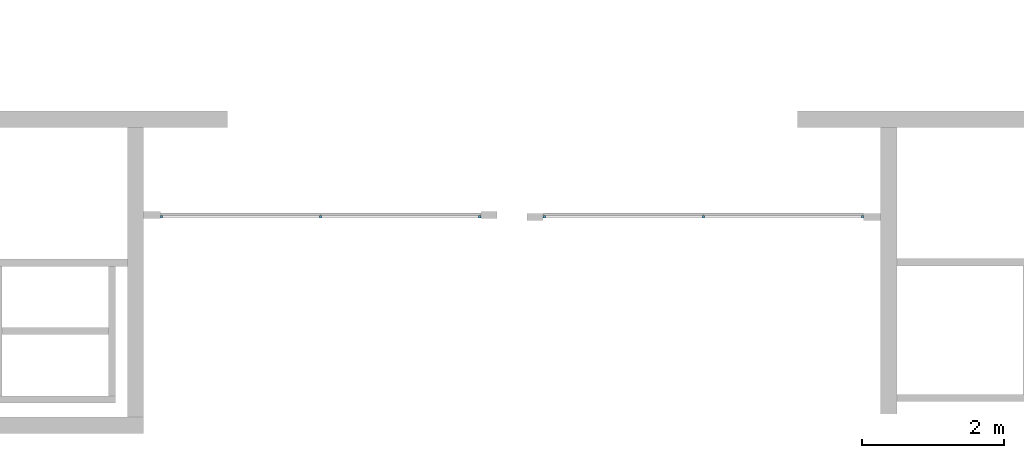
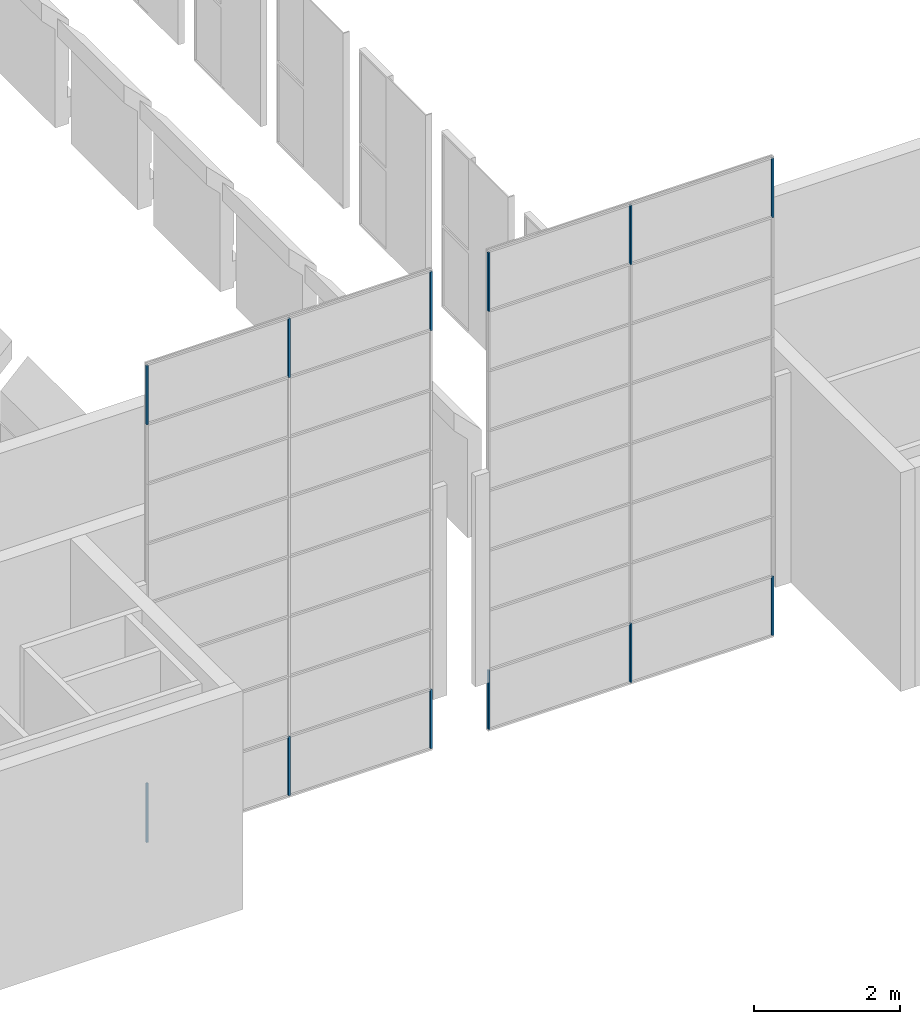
# One storey, part 5 of 16: 12 members, 2 elements without a shape of their own.
"""IFC2X3 building model written with IfcOpenShell, lengths in millimetres."""

import ifcopenshell
import ifcopenshell.guid

model = None  # the IFC model being written
_history = None  # IfcOwnerHistory: only IFC2X3 demands one
_inside = {}  # id of a spatial element -> (the spatial element, [elements in it])
_under = {}  # id of a project, library or spatial element -> (it, [spatial elements below it])
_declared = {}  # id of a project -> (the project, [libraries it declares])
_typed = {}  # id of a type object -> (the type object, [elements of that type])
_made_of = {}  # id of a material, layer set ... -> (it, [elements and type objects made of it])


def new_model(schema):
    """Start an empty IFC model of exactly this schema.

    Asked for "IFC4X3", IfcOpenShell would pick the latest addendum, in which some entities
    have other attributes; the version numbers below select the first issue.
    IFC2X3 requires an IfcOwnerHistory on every rooted entity: one is made here for all.
    """
    global model, _history
    if schema == "IFC4X3":
        model = ifcopenshell.file(schema_version=(4, 3, 0, 0))
    else:
        model = ifcopenshell.file(schema=schema)
    _inside.clear()
    _under.clear()
    _declared.clear()
    _typed.clear()
    _made_of.clear()
    _history = None
    if model.schema == "IFC2X3":
        org = make("IfcOrganization", Name="unknown")
        user = make(
            "IfcPersonAndOrganization",
            ThePerson=make("IfcPerson", FamilyName="unknown"),
            TheOrganization=org,
        )
        app = make(
            "IfcApplication",
            ApplicationDeveloper=org,
            Version="unknown",
            ApplicationFullName="unknown",
            ApplicationIdentifier="unknown",
        )
        _history = make(
            "IfcOwnerHistory",
            OwningUser=user,
            OwningApplication=app,
            ChangeAction="ADDED",
            CreationDate=0,
        )
    return model


def make(cls, **values):
    """One entity of the class cls with the attributes given. An attribute that is None is left unset."""
    return model.create_entity(
        cls, **{name: value for name, value in values.items() if value is not None}
    )


def entity(cls, *values):
    """Any entity or typed value of the class cls, its attributes in the order of the schema. None: left unset."""
    e = model.create_entity(cls)
    for i, value in enumerate(values):
        if value is not None:
            e[i] = value
    return e


def rooted(cls, **values):
    """An entity with a GlobalId (a new one), such as an element, a storey or a relation."""
    return make(cls, GlobalId=ifcopenshell.guid.new(), OwnerHistory=_history, **values)


def si_unit(unit_type, name, prefix=None):
    """IfcSIUnit, for example si_unit("LENGTHUNIT", "METRE", prefix="MILLI")."""
    return make("IfcSIUnit", UnitType=unit_type, Prefix=prefix, Name=name)


def converted_unit(unit_type, name, factor, base, dimensions=None, offset=None):
    """IfcConversionBasedUnit, such as the inch: factor (a typed value) times the base unit."""
    return make(
        "IfcConversionBasedUnit"
        if offset is None
        else "IfcConversionBasedUnitWithOffset",
        ConversionOffset=offset,
        Dimensions=None
        if dimensions is None
        else entity("IfcDimensionalExponents", *dimensions),
        UnitType=unit_type,
        Name=name,
        ConversionFactor=make(
            "IfcMeasureWithUnit", ValueComponent=factor, UnitComponent=base
        ),
    )


def derived_unit(unit_type, elements):
    """IfcDerivedUnit: a product of units, each with its exponent."""
    return make(
        "IfcDerivedUnit",
        Elements=[
            make("IfcDerivedUnitElement", Unit=unit, Exponent=power)
            for unit, power in elements
        ],
        UnitType=unit_type,
    )


def assignment(units):
    """IfcUnitAssignment: the units of a project."""
    return None if units is None else make("IfcUnitAssignment", Units=units)


def point(xyz):
    """IfcCartesianPoint."""
    return None if xyz is None else make("IfcCartesianPoint", Coordinates=xyz)


def direction(xyz):
    """IfcDirection."""
    return None if xyz is None else make("IfcDirection", DirectionRatios=xyz)


def frame(location, z_axis=None, x_axis=None):
    """IfcAxis2Placement3D, a coordinate frame: its origin and axes. An axis left out is left unset."""
    return make(
        "IfcAxis2Placement3D",
        Location=point(location),
        Axis=direction(z_axis),
        RefDirection=direction(x_axis),
    )


def frame_2d(location, x_axis=None):
    """IfcAxis2Placement2D, a coordinate frame in the plane: its origin and x axis."""
    return make(
        "IfcAxis2Placement2D", Location=point(location), RefDirection=direction(x_axis)
    )


def origin():
    """The frame at (0, 0, 0) with its axes left unset."""
    return frame((0.0, 0.0, 0.0))


def origin_2d_with_axis():
    """The frame at (0, 0) in the plane with the x axis (1, 0) written out."""
    return frame_2d((0.0, 0.0), x_axis=(1.0, 0.0))


def place(relative_to, where):
    """IfcLocalPlacement: puts the frame where relative to a parent placement (None: the world)."""
    return make(
        "IfcLocalPlacement", PlacementRelTo=relative_to, RelativePlacement=where
    )


def context(
    kind, dimensions, precision=None, world=None, true_north=None, identifier=None
):
    """IfcGeometricRepresentationContext, for example the 3D "Model" context."""
    return make(
        "IfcGeometricRepresentationContext",
        ContextIdentifier=identifier,
        ContextType=kind,
        CoordinateSpaceDimension=dimensions,
        Precision=precision,
        WorldCoordinateSystem=world,
        TrueNorth=true_north,
    )


def subcontext(parent, identifier, kind, view, scale=None):
    """IfcGeometricRepresentationSubContext, for example "Body" below "Model"."""
    return make(
        "IfcGeometricRepresentationSubContext",
        ContextIdentifier=identifier,
        ContextType=kind,
        ParentContext=parent,
        TargetScale=scale,
        TargetView=view,
    )


def project(units=None, contexts=None):
    """IfcProject with its units and contexts."""
    return rooted(
        "IfcProject",
        Name="project",
        RepresentationContexts=contexts,
        UnitsInContext=assignment(units),
    )


def spatial(cls, under=None, at=None, **own):
    """A site, building, storey or space (cls), placed at a placement, below another one or the project."""
    s = rooted(cls, ObjectPlacement=at, **own)
    if under is not None:
        _under.setdefault(under.id(), (under, []))[1].append(s)
    return s


def profile(cls, at=None, kind="AREA", **sizes):
    """A parametric profile (cls). Its sizes go by their IFC names, for example OverallWidth=200.0."""
    return make(cls, ProfileType=kind, Position=at, **sizes)


def rectangle(**sizes):
    """IfcRectangleProfileDef."""
    return profile("IfcRectangleProfileDef", **sizes)


def extrude(swept, where, along, depth):
    """IfcExtrudedAreaSolid: the profile swept, set in the frame where, extruded along a direction by depth."""
    return make(
        "IfcExtrudedAreaSolid",
        SweptArea=swept,
        Position=where,
        ExtrudedDirection=direction(along),
        Depth=depth,
    )


def shape(context_of_items, identifier, shape_type, items):
    """IfcShapeRepresentation: the items that make up one representation, for example the "Body"."""
    return make(
        "IfcShapeRepresentation",
        ContextOfItems=context_of_items,
        RepresentationIdentifier=identifier,
        RepresentationType=shape_type,
        Items=items,
    )


def source(mapping_origin, context_of_items, identifier, shape_type, items):
    """IfcRepresentationMap: a shape defined once, which mapped items show again and again."""
    return make(
        "IfcRepresentationMap",
        MappingOrigin=mapping_origin,
        MappedRepresentation=shape(context_of_items, identifier, shape_type, items),
    )


def transform(
    local_origin,
    x_axis=None,
    y_axis=None,
    z_axis=None,
    scale=None,
    scale2=None,
    scale3=None,
    uniform=True,
):
    """IfcCartesianTransformationOperator3D, or its non-uniform kind. x_axis, y_axis, z_axis: its Axis1, 2, 3."""
    if uniform:
        return make(
            "IfcCartesianTransformationOperator3D",
            Axis1=direction(x_axis),
            Axis2=direction(y_axis),
            LocalOrigin=point(local_origin),
            Scale=scale,
            Axis3=direction(z_axis),
        )
    return make(
        "IfcCartesianTransformationOperator3DnonUniform",
        Axis1=direction(x_axis),
        Axis2=direction(y_axis),
        LocalOrigin=point(local_origin),
        Scale=scale,
        Axis3=direction(z_axis),
        Scale2=scale2,
        Scale3=scale3,
    )


def mapped(mapping_source, mapping_target):
    """IfcMappedItem: shows the shape of a source again, moved by a transform."""
    return make(
        "IfcMappedItem", MappingSource=mapping_source, MappingTarget=mapping_target
    )


def material(Name=None, Category=None):
    """IfcMaterial."""
    return make("IfcMaterial", Name=Name, Category=Category)


def made_of(thing, what):
    """Note that an element or type object is made of a material, layer set ...; save() writes the relation."""
    if what is not None:
        _made_of.setdefault(what.id(), (what, []))[1].append(thing)
    return thing


def type_object(cls, material=None, **own):
    """A type object (cls), such as IfcWallType, which elements share."""
    return made_of(rooted(cls, **own), material)


def type_shapes(of_type, sources):
    """Give a type object the sources (RepresentationMaps) that its elements show as mapped items."""
    of_type.RepresentationMaps = sources


def element(
    cls,
    number,
    at=None,
    inside=None,
    cuts=None,
    type_object=None,
    material=None,
    context=None,
    identifier="Body",
    shape_type=None,
    held_by="IfcProductDefinitionShape",
    body=None,
    shapes=None,
    **own,
):
    """One element of the class cls, such as IfcWall. Its Tag is "e" and its number.

    at: its placement. inside: the storey or other place that contains it. cuts: it is an
    opening in that element (IfcRelVoidsElement). A single representation is given by context,
    identifier, shape_type and body (its items); several are given by shapes. held_by: the class
    of the entity that holds the representations. save() writes the other relations.
    """
    e = rooted(cls, Tag="e%d" % number, ObjectPlacement=at, **own)
    if body is not None:
        shapes = [shape(context, identifier, shape_type, body)]
    if shapes is not None:
        e.Representation = make(held_by, Representations=shapes)
    if inside is not None:
        _inside.setdefault(inside.id(), (inside, []))[1].append(e)
    if cuts is not None:
        rooted(
            "IfcRelVoidsElement", RelatingBuildingElement=cuts, RelatedOpeningElement=e
        )
    if type_object is not None:
        _typed.setdefault(type_object.id(), (type_object, []))[1].append(e)
    return made_of(e, material)


def aggregate(whole, parts):
    """IfcRelAggregates: a whole, such as a stair, and the parts it consists of."""
    return rooted("IfcRelAggregates", RelatingObject=whole, RelatedObjects=parts)


def save(model, path):
    """Write the relations noted so far, then the file.

    IfcRelAggregates (storeys below a building ...), IfcRelContainedInSpatialStructure (elements
    in a storey), IfcRelDefinesByType, IfcRelAssociatesMaterial and IfcRelDeclares: one each for
    every whole, place, type object, material and project.
    """
    for whole, parts in _under.values():
        aggregate(whole, parts)
    for where, things in _inside.values():
        rooted(
            "IfcRelContainedInSpatialStructure",
            RelatedElements=things,
            RelatingStructure=where,
        )
    for kind, things in _typed.values():
        rooted("IfcRelDefinesByType", RelatedObjects=things, RelatingType=kind)
    for what, things in _made_of.values():
        rooted("IfcRelAssociatesMaterial", RelatedObjects=things, RelatingMaterial=what)
    for by, libraries in _declared.values():
        rooted("IfcRelDeclares", RelatingContext=by, RelatedDefinitions=libraries)
    model.write(path)


model = new_model("IFC2X3")

# Units and contexts
model_context = context("Model", 3, precision=0.01, world=origin(), true_north=direction((6.12303176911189e-17, 1.0)))
body_context = subcontext(model_context, "Body", "Model", "MODEL_VIEW")
ifc_project = project(units=[si_unit("LENGTHUNIT", "METRE", prefix="MILLI"), si_unit("AREAUNIT", "SQUARE_METRE"), si_unit("VOLUMEUNIT", "CUBIC_METRE"), converted_unit("PLANEANGLEUNIT", "DEGREE", entity("IfcRatioMeasure", 0.0174532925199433), si_unit("PLANEANGLEUNIT", "RADIAN"), dimensions=[0, 0, 0, 0, 0, 0, 0]), si_unit("MASSUNIT", "GRAM", prefix="KILO"), derived_unit("MASSDENSITYUNIT", [(si_unit("MASSUNIT", "GRAM", prefix="KILO"), 1), (si_unit("LENGTHUNIT", "METRE"), -3)]), derived_unit("MOMENTOFINERTIAUNIT", [(si_unit("LENGTHUNIT", "METRE"), 4)]), si_unit("TIMEUNIT", "SECOND"), si_unit("FREQUENCYUNIT", "HERTZ"), si_unit("THERMODYNAMICTEMPERATUREUNIT", "DEGREE_CELSIUS"), derived_unit("THERMALTRANSMITTANCEUNIT", [(si_unit("MASSUNIT", "GRAM", prefix="KILO"), 1), (si_unit("THERMODYNAMICTEMPERATUREUNIT", "KELVIN"), -1), (si_unit("TIMEUNIT", "SECOND"), -3)]), derived_unit("VOLUMETRICFLOWRATEUNIT", [(si_unit("LENGTHUNIT", "METRE"), 3), (si_unit("TIMEUNIT", "SECOND"), -1)]), si_unit("ELECTRICCURRENTUNIT", "AMPERE"), si_unit("ELECTRICVOLTAGEUNIT", "VOLT"), si_unit("POWERUNIT", "WATT"), si_unit("FORCEUNIT", "NEWTON", prefix="KILO"), si_unit("ILLUMINANCEUNIT", "LUX"), si_unit("LUMINOUSFLUXUNIT", "LUMEN"), si_unit("LUMINOUSINTENSITYUNIT", "CANDELA"), derived_unit("USERDEFINED", [(si_unit("MASSUNIT", "GRAM", prefix="KILO"), -1), (si_unit("LENGTHUNIT", "METRE"), -2), (si_unit("TIMEUNIT", "SECOND"), 3), (si_unit("LUMINOUSFLUXUNIT", "LUMEN"), 1)]), derived_unit("LINEARVELOCITYUNIT", [(si_unit("LENGTHUNIT", "METRE"), 1), (si_unit("TIMEUNIT", "SECOND"), -1)]), si_unit("PRESSUREUNIT", "PASCAL"), derived_unit("USERDEFINED", [(si_unit("LENGTHUNIT", "METRE"), -2), (si_unit("MASSUNIT", "GRAM", prefix="KILO"), 1), (si_unit("TIMEUNIT", "SECOND"), -2)]), derived_unit("LINEARFORCEUNIT", [(si_unit("MASSUNIT", "GRAM", prefix="KILO"), 1), (si_unit("LENGTHUNIT", "METRE"), 1), (si_unit("TIMEUNIT", "SECOND"), -2), (si_unit("LENGTHUNIT", "METRE"), -1)]), derived_unit("PLANARFORCEUNIT", [(si_unit("MASSUNIT", "GRAM", prefix="KILO"), 1), (si_unit("LENGTHUNIT", "METRE"), 1), (si_unit("TIMEUNIT", "SECOND"), -2), (si_unit("LENGTHUNIT", "METRE"), -2)])], contexts=[model_context])

# Site, building, storey
site_placement = place(None, frame((10627.5135316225, 21939.0796949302, 0.0)))
site = spatial("IfcSite", under=ifc_project, at=site_placement, Name="Default", CompositionType="ELEMENT")
building_placement = place(site_placement, origin())
building = spatial("IfcBuilding", under=site, at=building_placement, CompositionType="ELEMENT")
storey_placement = place(building_placement, frame((0.0, 0.0, 3660.0)))
storey = spatial("IfcBuildingStorey", under=building, at=storey_placement, Name="R+1", CompositionType="ELEMENT", Elevation=3660.0)

# Curtain wall, members
curtain_wall_type = type_object("IfcCurtainWallType", Name="Curtain Wall:Curtain_Wall-Exterior_Glazing", PredefinedType="NOTDEFINED")
curtain_wall_1_placement = place(storey_placement, frame((0.0, 0.0, -3660.0)))
curtain_wall_1 = element("IfcCurtainWall", 1, at=curtain_wall_1_placement, inside=storey, type_object=curtain_wall_type, Name="Curtain Wall:Curtain_Wall-Exterior_Glazing", ObjectType="Curtain Wall:Curtain_Wall-Exterior_Glazing")
ifc_material = material(Name="Aluminium")
member_type_1 = type_object("IfcMemberType", Name="Rectangular Mullion:30mm_Square", PredefinedType="MULLION", material=ifc_material)
shared_shape_1 = source(origin(), body_context, "Body", "SweptSolid", [
    extrude(rectangle(XDim=30.0, YDim=30.0, at=origin_2d_with_axis()), frame((-15.0, 0.0, -985.53377118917), z_axis=(0.0, 0.0, 1.0), x_axis=(0.0, -1.0, 0.0)), (0.0, 0.0, 1.0), 985.53377118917),
])
type_shapes(member_type_1, [shared_shape_1])
member_1_placement = place(storey_placement, frame((21616.4616023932, -18895.8331484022, 7160.0), z_axis=(0.0, 0.0, 1.0), x_axis=(-1.0, 0.0, 0.0)))
member_1 = element("IfcMember", 2, at=member_1_placement, type_object=member_type_1, material=ifc_material, Name="Rectangular Mullion:30mm_Square", ObjectType="Rectangular Mullion:30mm_Square", context=body_context, shape_type="MappedRepresentation", body=[
    mapped(shared_shape_1, transform((0.0, 0.0, 0.0), scale=1.0)),
])
member_type_2 = type_object("IfcMemberType", Name="Rectangular Mullion:30mm_Square", PredefinedType="MULLION", material=ifc_material)
shared_shape_2 = source(origin(), body_context, "Body", "SweptSolid", [
    extrude(rectangle(XDim=30.0, YDim=30.0, at=origin_2d_with_axis()), frame((-15.0, 0.0, -985.53377118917), z_axis=(0.0, 0.0, 1.0), x_axis=(0.0, -1.0, 0.0)), (0.0, 0.0, 1.0), 985.53377118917),
])
type_shapes(member_type_2, [shared_shape_2])
member_2_placement = place(storey_placement, frame((21616.4616023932, -18895.8331484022, 171.263601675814), z_axis=(0.0, 0.0, 1.0), x_axis=(-1.0, 0.0, 0.0)))
member_2 = element("IfcMember", 3, at=member_2_placement, type_object=member_type_2, material=ifc_material, Name="Rectangular Mullion:30mm_Square", ObjectType="Rectangular Mullion:30mm_Square", context=body_context, shape_type="MappedRepresentation", body=[
    mapped(shared_shape_2, transform((0.0, 0.0, 0.0), scale=1.0)),
])
member_type_3 = type_object("IfcMemberType", Name="Rectangular Mullion:30mm_Square", PredefinedType="MULLION", material=ifc_material)
shared_shape_3 = source(origin(), body_context, "Body", "SweptSolid", [
    extrude(rectangle(XDim=30.0, YDim=30.0, at=origin_2d_with_axis()), frame((0.0, 0.0, -985.533771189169), z_axis=(0.0, 0.0, 1.0), x_axis=(0.0, -1.0, 0.0)), (0.0, 0.0, 1.0), 985.533771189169),
])
type_shapes(member_type_3, [shared_shape_3])
member_3_placement = place(storey_placement, frame((23876.4616023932, -18895.8331484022, -814.270169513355), z_axis=(0.0, 0.0, -1.0), x_axis=(1.0, 0.0, 0.0)))
member_3 = element("IfcMember", 4, at=member_3_placement, type_object=member_type_3, material=ifc_material, Name="Rectangular Mullion:30mm_Square", ObjectType="Rectangular Mullion:30mm_Square", context=body_context, shape_type="MappedRepresentation", body=[
    mapped(shared_shape_3, transform((0.0, 0.0, 0.0), scale=1.0)),
])
member_type_4 = type_object("IfcMemberType", Name="Rectangular Mullion:30mm_Square", PredefinedType="MULLION", material=ifc_material)
shared_shape_4 = source(origin(), body_context, "Body", "SweptSolid", [
    extrude(rectangle(XDim=30.0, YDim=30.0, at=origin_2d_with_axis()), frame((0.0, 0.0, -985.53377118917), z_axis=(0.0, 0.0, 1.0), x_axis=(0.0, -1.0, 0.0)), (0.0, 0.0, 1.0), 985.53377118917),
])
type_shapes(member_type_4, [shared_shape_4])
member_4_placement = place(storey_placement, frame((23876.4616023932, -18895.8331484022, 6174.46622881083), z_axis=(0.0, 0.0, -1.0), x_axis=(1.0, 0.0, 0.0)))
member_4 = element("IfcMember", 5, at=member_4_placement, type_object=member_type_4, material=ifc_material, Name="Rectangular Mullion:30mm_Square", ObjectType="Rectangular Mullion:30mm_Square", context=body_context, shape_type="MappedRepresentation", body=[
    mapped(shared_shape_4, transform((0.0, 0.0, 0.0), scale=1.0)),
])
member_type_5 = type_object("IfcMemberType", Name="Rectangular Mullion:30mm_Square", PredefinedType="MULLION", material=ifc_material)
shared_shape_5 = source(origin(), body_context, "Body", "SweptSolid", [
    extrude(rectangle(XDim=30.0, YDim=30.0, at=origin_2d_with_axis()), frame((-15.0, 0.0, -985.533771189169), z_axis=(0.0, 0.0, 1.0), x_axis=(0.0, -1.0, 0.0)), (0.0, 0.0, 1.0), 985.533771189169),
])
type_shapes(member_type_5, [shared_shape_5])
member_5_placement = place(storey_placement, frame((26136.4616023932, -18895.8331484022, -814.270169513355), z_axis=(0.0, 0.0, -1.0), x_axis=(1.0, 0.0, 0.0)))
member_5 = element("IfcMember", 6, at=member_5_placement, type_object=member_type_5, material=ifc_material, Name="Rectangular Mullion:30mm_Square", ObjectType="Rectangular Mullion:30mm_Square", context=body_context, shape_type="MappedRepresentation", body=[
    mapped(shared_shape_5, transform((0.0, 0.0, 0.0), scale=1.0)),
])
member_type_6 = type_object("IfcMemberType", Name="Rectangular Mullion:30mm_Square", PredefinedType="MULLION", material=ifc_material)
shared_shape_6 = source(origin(), body_context, "Body", "SweptSolid", [
    extrude(rectangle(XDim=30.0, YDim=30.0, at=origin_2d_with_axis()), frame((-15.0, 0.0, -985.53377118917), z_axis=(0.0, 0.0, 1.0), x_axis=(0.0, -1.0, 0.0)), (0.0, 0.0, 1.0), 985.53377118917),
])
type_shapes(member_type_6, [shared_shape_6])
member_6_placement = place(storey_placement, frame((26136.4616023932, -18895.8331484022, 6174.46622881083), z_axis=(0.0, 0.0, -1.0), x_axis=(1.0, 0.0, 0.0)))
member_6 = element("IfcMember", 7, at=member_6_placement, type_object=member_type_6, material=ifc_material, Name="Rectangular Mullion:30mm_Square", ObjectType="Rectangular Mullion:30mm_Square", context=body_context, shape_type="MappedRepresentation", body=[
    mapped(shared_shape_6, transform((0.0, 0.0, 0.0), scale=1.0)),
])
aggregate(curtain_wall_1, [member_1, member_2, member_3, member_4, member_5, member_6])

curtain_wall_2_placement = place(storey_placement, frame((0.0, 0.0, -3660.0)))
curtain_wall_2 = element("IfcCurtainWall", 8, at=curtain_wall_2_placement, inside=storey, type_object=curtain_wall_type, Name="Curtain Wall:Curtain_Wall-Exterior_Glazing", ObjectType="Curtain Wall:Curtain_Wall-Exterior_Glazing")
member_type_7 = type_object("IfcMemberType", Name="Rectangular Mullion:30mm_Square", PredefinedType="MULLION", material=ifc_material)
shared_shape_7 = source(origin(), body_context, "Body", "SweptSolid", [
    extrude(rectangle(XDim=30.0, YDim=30.0, at=origin_2d_with_axis()), frame((-15.0, 0.0, -985.53377118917), z_axis=(0.0, 0.0, 1.0), x_axis=(0.0, -1.0, 0.0)), (0.0, 0.0, 1.0), 985.53377118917),
])
type_shapes(member_type_7, [shared_shape_7])
member_7_placement = place(storey_placement, frame((31538.5113343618, -18895.8331484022, 7160.0)))
member_7 = element("IfcMember", 9, at=member_7_placement, type_object=member_type_7, material=ifc_material, Name="Rectangular Mullion:30mm_Square", ObjectType="Rectangular Mullion:30mm_Square", context=body_context, shape_type="MappedRepresentation", body=[
    mapped(shared_shape_7, transform((0.0, 0.0, 0.0), scale=1.0)),
])
member_type_8 = type_object("IfcMemberType", Name="Rectangular Mullion:30mm_Square", PredefinedType="MULLION", material=ifc_material)
shared_shape_8 = source(origin(), body_context, "Body", "SweptSolid", [
    extrude(rectangle(XDim=30.0, YDim=30.0, at=origin_2d_with_axis()), frame((-15.0, 0.0, -985.53377118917), z_axis=(0.0, 0.0, 1.0), x_axis=(0.0, -1.0, 0.0)), (0.0, 0.0, 1.0), 985.53377118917),
])
type_shapes(member_type_8, [shared_shape_8])
member_8_placement = place(storey_placement, frame((31538.5113343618, -18895.8331484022, 171.263601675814)))
member_8 = element("IfcMember", 10, at=member_8_placement, type_object=member_type_8, material=ifc_material, Name="Rectangular Mullion:30mm_Square", ObjectType="Rectangular Mullion:30mm_Square", context=body_context, shape_type="MappedRepresentation", body=[
    mapped(shared_shape_8, transform((0.0, 0.0, 0.0), scale=1.0)),
])
member_type_9 = type_object("IfcMemberType", Name="Rectangular Mullion:30mm_Square", PredefinedType="MULLION", material=ifc_material)
shared_shape_9 = source(origin(), body_context, "Body", "SweptSolid", [
    extrude(rectangle(XDim=30.0, YDim=30.0, at=origin_2d_with_axis()), frame((0.0, 0.0, -985.533771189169), z_axis=(0.0, 0.0, 1.0), x_axis=(0.0, -1.0, 0.0)), (0.0, 0.0, 1.0), 985.533771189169),
])
type_shapes(member_type_9, [shared_shape_9])
member_9_placement = place(storey_placement, frame((29278.5113343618, -18895.8331484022, -814.270169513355), z_axis=(0.0, 0.0, -1.0), x_axis=(-1.0, 0.0, 0.0)))
member_9 = element("IfcMember", 11, at=member_9_placement, type_object=member_type_9, material=ifc_material, Name="Rectangular Mullion:30mm_Square", ObjectType="Rectangular Mullion:30mm_Square", context=body_context, shape_type="MappedRepresentation", body=[
    mapped(shared_shape_9, transform((0.0, 0.0, 0.0), scale=1.0)),
])
member_type_10 = type_object("IfcMemberType", Name="Rectangular Mullion:30mm_Square", PredefinedType="MULLION", material=ifc_material)
shared_shape_10 = source(origin(), body_context, "Body", "SweptSolid", [
    extrude(rectangle(XDim=30.0, YDim=30.0, at=origin_2d_with_axis()), frame((0.0, 0.0, -985.53377118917), z_axis=(0.0, 0.0, 1.0), x_axis=(0.0, -1.0, 0.0)), (0.0, 0.0, 1.0), 985.53377118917),
])
type_shapes(member_type_10, [shared_shape_10])
member_10_placement = place(storey_placement, frame((29278.5113343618, -18895.8331484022, 6174.46622881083), z_axis=(0.0, 0.0, -1.0), x_axis=(-1.0, 0.0, 0.0)))
member_10 = element("IfcMember", 12, at=member_10_placement, type_object=member_type_10, material=ifc_material, Name="Rectangular Mullion:30mm_Square", ObjectType="Rectangular Mullion:30mm_Square", context=body_context, shape_type="MappedRepresentation", body=[
    mapped(shared_shape_10, transform((0.0, 0.0, 0.0), scale=1.0)),
])
member_type_11 = type_object("IfcMemberType", Name="Rectangular Mullion:30mm_Square", PredefinedType="MULLION", material=ifc_material)
shared_shape_11 = source(origin(), body_context, "Body", "SweptSolid", [
    extrude(rectangle(XDim=30.0, YDim=30.0, at=origin_2d_with_axis()), frame((-15.0, 0.0, -985.533771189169), z_axis=(0.0, 0.0, 1.0), x_axis=(0.0, -1.0, 0.0)), (0.0, 0.0, 1.0), 985.533771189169),
])
type_shapes(member_type_11, [shared_shape_11])
member_11_placement = place(storey_placement, frame((27018.5113343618, -18895.8331484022, -814.270169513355), z_axis=(0.0, 0.0, -1.0), x_axis=(-1.0, 0.0, 0.0)))
member_11 = element("IfcMember", 13, at=member_11_placement, type_object=member_type_11, material=ifc_material, Name="Rectangular Mullion:30mm_Square", ObjectType="Rectangular Mullion:30mm_Square", context=body_context, shape_type="MappedRepresentation", body=[
    mapped(shared_shape_11, transform((0.0, 0.0, 0.0), scale=1.0)),
])
member_type_12 = type_object("IfcMemberType", Name="Rectangular Mullion:30mm_Square", PredefinedType="MULLION", material=ifc_material)
shared_shape_12 = source(origin(), body_context, "Body", "SweptSolid", [
    extrude(rectangle(XDim=30.0, YDim=30.0, at=origin_2d_with_axis()), frame((-15.0, 0.0, -985.53377118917), z_axis=(0.0, 0.0, 1.0), x_axis=(0.0, -1.0, 0.0)), (0.0, 0.0, 1.0), 985.53377118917),
])
type_shapes(member_type_12, [shared_shape_12])
member_12_placement = place(storey_placement, frame((27018.5113343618, -18895.8331484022, 6174.46622881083), z_axis=(0.0, 0.0, -1.0), x_axis=(-1.0, 0.0, 0.0)))
member_12 = element("IfcMember", 14, at=member_12_placement, type_object=member_type_12, material=ifc_material, Name="Rectangular Mullion:30mm_Square", ObjectType="Rectangular Mullion:30mm_Square", context=body_context, shape_type="MappedRepresentation", body=[
    mapped(shared_shape_12, transform((0.0, 0.0, 0.0), scale=1.0)),
])
aggregate(curtain_wall_2, [member_7, member_8, member_9, member_10, member_11, member_12])

save(model, "model.ifc")
